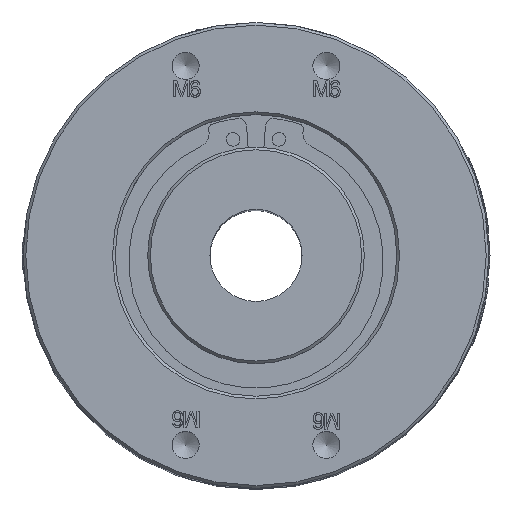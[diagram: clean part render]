
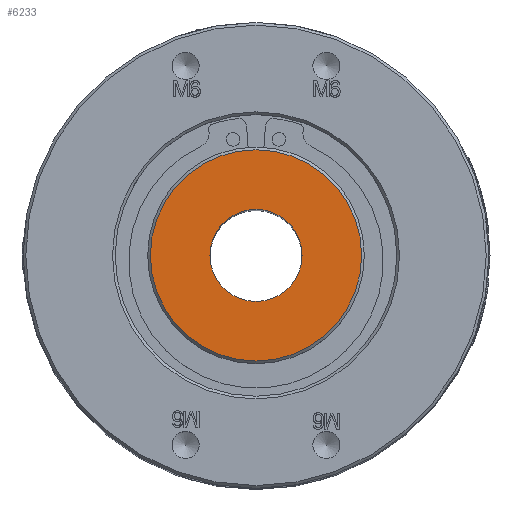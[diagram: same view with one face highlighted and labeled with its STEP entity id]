
A CAD part, top view. The second image highlights one B-rep face of the part: STEP entity #6233.
In plain terms, the highlighted planar face has unit normal (0, 0, 1).
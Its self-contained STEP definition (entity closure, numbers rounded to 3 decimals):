
#372=FACE_BOUND('',#10944,.T.);
#373=FACE_BOUND('',#10945,.T.);
#654=CIRCLE('',#38384,8.5);
#669=CIRCLE('',#38402,19.5);
#6233=ADVANCED_FACE('',(#372,#373),#7301,.T.);
#7301=PLANE('',#38403);
#10944=EDGE_LOOP('',(#19110));
#10945=EDGE_LOOP('',(#19111));
#19110=ORIENTED_EDGE('',*,*,#30691,.T.);
#19111=ORIENTED_EDGE('',*,*,#30712,.T.);
#25636=VERTEX_POINT('',#68489);
#25656=VERTEX_POINT('',#68533);
#30691=EDGE_CURVE('',#25636,#25636,#654,.T.);
#30712=EDGE_CURVE('',#25656,#25656,#669,.T.);
#38384=AXIS2_PLACEMENT_3D('',#68488,#41655,#41656);
#38402=AXIS2_PLACEMENT_3D('',#68532,#41697,#41698);
#38403=AXIS2_PLACEMENT_3D('',#68534,#41699,#41700);
#41655=DIRECTION('',(0.,0.,-1.));
#41656=DIRECTION('',(1.,0.,0.));
#41697=DIRECTION('',(0.,0.,1.));
#41698=DIRECTION('',(1.,0.,0.));
#41699=DIRECTION('',(0.,0.,1.));
#41700=DIRECTION('',(1.,0.,0.));
#68488=CARTESIAN_POINT('',(0.,0.,130.5));
#68489=CARTESIAN_POINT('',(8.5,0.,130.5));
#68532=CARTESIAN_POINT('',(0.,0.,130.5));
#68533=CARTESIAN_POINT('',(19.5,0.,130.5));
#68534=CARTESIAN_POINT('',(0.,0.,130.5));
